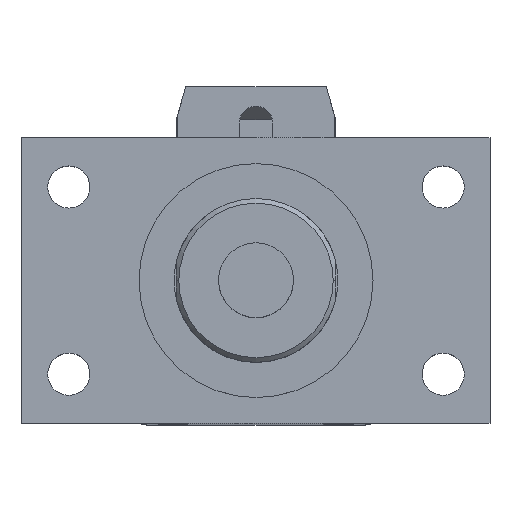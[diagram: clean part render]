
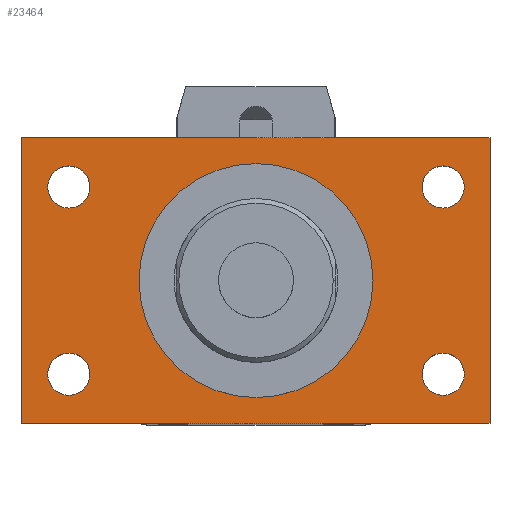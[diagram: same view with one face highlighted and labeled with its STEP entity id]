
A CAD part, top view. The second image highlights one B-rep face of the part: STEP entity #23464.
In plain terms, the highlighted planar face has unit normal (0, 0, 1).
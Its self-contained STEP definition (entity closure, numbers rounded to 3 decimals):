
#41 = CARTESIAN_POINT ( 'NONE',  ( 0., 0., 197. ) ) ;
#252 = CARTESIAN_POINT ( 'NONE',  ( 35.5, 20., 197. ) ) ;
#293 = CARTESIAN_POINT ( 'NONE',  ( 0., 0., 197. ) ) ;
#574 = ORIENTED_EDGE ( 'NONE', *, *, #21011, .T. ) ;
#602 = CIRCLE ( 'NONE', #6172, 4.5 ) ;
#814 = LINE ( 'NONE', #9749, #9984 ) ;
#960 = EDGE_LOOP ( 'NONE', ( #10758, #9245 ) ) ;
#998 = CARTESIAN_POINT ( 'NONE',  ( 40., 20., 197. ) ) ;
#1006 = CARTESIAN_POINT ( 'NONE',  ( 50., 30.5, 197. ) ) ;
#1018 = EDGE_CURVE ( 'NONE', #21322, #10422, #12667, .T. ) ;
#1407 = DIRECTION ( 'NONE',  ( -1., 0., 0. ) ) ;
#1862 = CARTESIAN_POINT ( 'NONE',  ( 50., -30.5, 197. ) ) ;
#2314 = DIRECTION ( 'NONE',  ( 1., 0., 0. ) ) ;
#2386 = EDGE_CURVE ( 'NONE', #19516, #22344, #14889, .T. ) ;
#2700 = LINE ( 'NONE', #1862, #13870 ) ;
#2833 = FACE_BOUND ( 'NONE', #9815, .T. ) ;
#3049 = CARTESIAN_POINT ( 'NONE',  ( -40., -20., 197. ) ) ;
#3160 = AXIS2_PLACEMENT_3D ( 'NONE', #5952, #15205, #4194 ) ;
#3235 = CARTESIAN_POINT ( 'NONE',  ( 0., 0., 197. ) ) ;
#3295 = AXIS2_PLACEMENT_3D ( 'NONE', #22295, #7525, #5444 ) ;
#3520 = DIRECTION ( 'NONE',  ( 0., 0., 1. ) ) ;
#3840 = DIRECTION ( 'NONE',  ( 0., 1., 0. ) ) ;
#3855 = VERTEX_POINT ( 'NONE', #1006 ) ;
#4194 = DIRECTION ( 'NONE',  ( 1., 0., 0. ) ) ;
#4322 = EDGE_CURVE ( 'NONE', #18558, #16149, #10207, .T. ) ;
#4356 = ORIENTED_EDGE ( 'NONE', *, *, #21465, .F. ) ;
#4545 = AXIS2_PLACEMENT_3D ( 'NONE', #16378, #3520, #16301 ) ;
#4827 = ORIENTED_EDGE ( 'NONE', *, *, #18813, .F. ) ;
#5299 = DIRECTION ( 'NONE',  ( 0., 0., 1. ) ) ;
#5444 = DIRECTION ( 'NONE',  ( 1., 0., 0. ) ) ;
#5490 = VECTOR ( 'NONE', #12061, 1000. ) ;
#5627 = ORIENTED_EDGE ( 'NONE', *, *, #12220, .F. ) ;
#5729 = DIRECTION ( 'NONE',  ( 0., 0., 1. ) ) ;
#5952 = CARTESIAN_POINT ( 'NONE',  ( 40., -20., 197. ) ) ;
#6172 = AXIS2_PLACEMENT_3D ( 'NONE', #16212, #21810, #17908 ) ;
#6418 = CARTESIAN_POINT ( 'NONE',  ( -50., 30.5, 197. ) ) ;
#6597 = AXIS2_PLACEMENT_3D ( 'NONE', #3235, #5299, #1407 ) ;
#6869 = CARTESIAN_POINT ( 'NONE',  ( 44.5, -20., 197. ) ) ;
#7417 = AXIS2_PLACEMENT_3D ( 'NONE', #998, #21421, #19573 ) ;
#7470 = CARTESIAN_POINT ( 'NONE',  ( 44.5, 20., 197. ) ) ;
#7483 = DIRECTION ( 'NONE',  ( 0., 0., 1. ) ) ;
#7525 = DIRECTION ( 'NONE',  ( 0., 0., 1. ) ) ;
#7693 = FACE_OUTER_BOUND ( 'NONE', #18695, .T. ) ;
#7721 = ORIENTED_EDGE ( 'NONE', *, *, #15017, .F. ) ;
#7994 = ORIENTED_EDGE ( 'NONE', *, *, #15803, .T. ) ;
#8054 = VERTEX_POINT ( 'NONE', #11540 ) ;
#8090 = AXIS2_PLACEMENT_3D ( 'NONE', #41, #22020, #18603 ) ;
#8246 = DIRECTION ( 'NONE',  ( 1., 0., 0. ) ) ;
#8802 = CIRCLE ( 'NONE', #6597, 25. ) ;
#9076 = CIRCLE ( 'NONE', #11713, 4.5 ) ;
#9186 = EDGE_CURVE ( 'NONE', #13577, #14727, #9076, .T. ) ;
#9245 = ORIENTED_EDGE ( 'NONE', *, *, #2386, .F. ) ;
#9359 = CARTESIAN_POINT ( 'NONE',  ( 50., -30.5, 197. ) ) ;
#9428 = AXIS2_PLACEMENT_3D ( 'NONE', #293, #7483, #22491 ) ;
#9749 = CARTESIAN_POINT ( 'NONE',  ( -50., -30.5, 197. ) ) ;
#9815 = EDGE_LOOP ( 'NONE', ( #5627, #23746 ) ) ;
#9984 = VECTOR ( 'NONE', #11575, 1000. ) ;
#10184 = DIRECTION ( 'NONE',  ( 0., -1., 0. ) ) ;
#10207 = LINE ( 'NONE', #23265, #10506 ) ;
#10312 = EDGE_CURVE ( 'NONE', #20790, #3855, #2700, .T. ) ;
#10422 = VERTEX_POINT ( 'NONE', #13218 ) ;
#10506 = VECTOR ( 'NONE', #10184, 1000. ) ;
#10758 = ORIENTED_EDGE ( 'NONE', *, *, #16635, .F. ) ;
#11540 = CARTESIAN_POINT ( 'NONE',  ( -35.5, 20., 197. ) ) ;
#11575 = DIRECTION ( 'NONE',  ( 1., 0., 0. ) ) ;
#11713 = AXIS2_PLACEMENT_3D ( 'NONE', #15225, #5729, #2314 ) ;
#12005 = FACE_BOUND ( 'NONE', #960, .T. ) ;
#12061 = DIRECTION ( 'NONE',  ( -1., 0., 0. ) ) ;
#12220 = EDGE_CURVE ( 'NONE', #14727, #13577, #23634, .T. ) ;
#12338 = CIRCLE ( 'NONE', #4545, 4.5 ) ;
#12430 = CARTESIAN_POINT ( 'NONE',  ( -50., -30.5, 197. ) ) ;
#12667 = CIRCLE ( 'NONE', #18655, 4.5 ) ;
#12848 = CARTESIAN_POINT ( 'NONE',  ( -35.5, -20., 197. ) ) ;
#12927 = CIRCLE ( 'NONE', #3160, 4.5 ) ;
#13154 = ORIENTED_EDGE ( 'NONE', *, *, #14571, .F. ) ;
#13218 = CARTESIAN_POINT ( 'NONE',  ( -44.5, -20., 197. ) ) ;
#13345 = ORIENTED_EDGE ( 'NONE', *, *, #1018, .F. ) ;
#13423 = FACE_BOUND ( 'NONE', #17077, .T. ) ;
#13577 = VERTEX_POINT ( 'NONE', #7470 ) ;
#13870 = VECTOR ( 'NONE', #3840, 1000. ) ;
#14571 = EDGE_CURVE ( 'NONE', #15660, #8054, #12338, .T. ) ;
#14727 = VERTEX_POINT ( 'NONE', #252 ) ;
#14889 = CIRCLE ( 'NONE', #9428, 25. ) ;
#14893 = CIRCLE ( 'NONE', #23537, 4.5 ) ;
#15017 = EDGE_CURVE ( 'NONE', #20553, #16651, #14893, .T. ) ;
#15205 = DIRECTION ( 'NONE',  ( 0., 0., 1. ) ) ;
#15225 = CARTESIAN_POINT ( 'NONE',  ( 40., 20., 197. ) ) ;
#15283 = ORIENTED_EDGE ( 'NONE', *, *, #10312, .T. ) ;
#15660 = VERTEX_POINT ( 'NONE', #16018 ) ;
#15802 = DIRECTION ( 'NONE',  ( 0., 0., 1. ) ) ;
#15803 = EDGE_CURVE ( 'NONE', #16149, #20790, #814, .T. ) ;
#15874 = CARTESIAN_POINT ( 'NONE',  ( 40., -20., 197. ) ) ;
#16018 = CARTESIAN_POINT ( 'NONE',  ( -44.5, 20., 197. ) ) ;
#16149 = VERTEX_POINT ( 'NONE', #12430 ) ;
#16212 = CARTESIAN_POINT ( 'NONE',  ( -40., -20., 197. ) ) ;
#16301 = DIRECTION ( 'NONE',  ( 1., 0., 0. ) ) ;
#16378 = CARTESIAN_POINT ( 'NONE',  ( -40., 20., 197. ) ) ;
#16635 = EDGE_CURVE ( 'NONE', #22344, #19516, #8802, .T. ) ;
#16651 = VERTEX_POINT ( 'NONE', #21687 ) ;
#17077 = EDGE_LOOP ( 'NONE', ( #4827, #13345 ) ) ;
#17349 = DIRECTION ( 'NONE',  ( 0., 0., 1. ) ) ;
#17595 = EDGE_LOOP ( 'NONE', ( #4356, #7721 ) ) ;
#17908 = DIRECTION ( 'NONE',  ( 1., 0., 0. ) ) ;
#18341 = FACE_BOUND ( 'NONE', #19858, .T. ) ;
#18440 = PLANE ( 'NONE',  #8090 ) ;
#18558 = VERTEX_POINT ( 'NONE', #6418 ) ;
#18603 = DIRECTION ( 'NONE',  ( -1., 0., 0. ) ) ;
#18655 = AXIS2_PLACEMENT_3D ( 'NONE', #3049, #17349, #8246 ) ;
#18695 = EDGE_LOOP ( 'NONE', ( #15283, #574, #19723, #7994 ) ) ;
#18813 = EDGE_CURVE ( 'NONE', #10422, #21322, #602, .T. ) ;
#19516 = VERTEX_POINT ( 'NONE', #23847 ) ;
#19573 = DIRECTION ( 'NONE',  ( 1., 0., 0. ) ) ;
#19723 = ORIENTED_EDGE ( 'NONE', *, *, #4322, .T. ) ;
#19858 = EDGE_LOOP ( 'NONE', ( #13154, #21337 ) ) ;
#20114 = EDGE_CURVE ( 'NONE', #8054, #15660, #22889, .T. ) ;
#20553 = VERTEX_POINT ( 'NONE', #6869 ) ;
#20790 = VERTEX_POINT ( 'NONE', #9359 ) ;
#21011 = EDGE_CURVE ( 'NONE', #3855, #18558, #21379, .T. ) ;
#21243 = DIRECTION ( 'NONE',  ( 1., 0., 0. ) ) ;
#21322 = VERTEX_POINT ( 'NONE', #12848 ) ;
#21337 = ORIENTED_EDGE ( 'NONE', *, *, #20114, .F. ) ;
#21379 = LINE ( 'NONE', #23145, #5490 ) ;
#21421 = DIRECTION ( 'NONE',  ( 0., 0., 1. ) ) ;
#21465 = EDGE_CURVE ( 'NONE', #16651, #20553, #12927, .T. ) ;
#21687 = CARTESIAN_POINT ( 'NONE',  ( 35.5, -20., 197. ) ) ;
#21810 = DIRECTION ( 'NONE',  ( 0., 0., 1. ) ) ;
#22020 = DIRECTION ( 'NONE',  ( 0., 0., -1. ) ) ;
#22295 = CARTESIAN_POINT ( 'NONE',  ( -40., 20., 197. ) ) ;
#22344 = VERTEX_POINT ( 'NONE', #23455 ) ;
#22491 = DIRECTION ( 'NONE',  ( -1., 0., 0. ) ) ;
#22704 = FACE_BOUND ( 'NONE', #17595, .T. ) ;
#22889 = CIRCLE ( 'NONE', #3295, 4.5 ) ;
#23145 = CARTESIAN_POINT ( 'NONE',  ( -50., 30.5, 197. ) ) ;
#23265 = CARTESIAN_POINT ( 'NONE',  ( -50., -30.5, 197. ) ) ;
#23455 = CARTESIAN_POINT ( 'NONE',  ( -25., 0., 197. ) ) ;
#23464 = ADVANCED_FACE ( 'NONE', ( #7693, #18341, #13423, #22704, #2833, #12005 ), #18440, .F. ) ;
#23537 = AXIS2_PLACEMENT_3D ( 'NONE', #15874, #15802, #21243 ) ;
#23634 = CIRCLE ( 'NONE', #7417, 4.5 ) ;
#23746 = ORIENTED_EDGE ( 'NONE', *, *, #9186, .F. ) ;
#23847 = CARTESIAN_POINT ( 'NONE',  ( 25., 0., 197. ) ) ;
